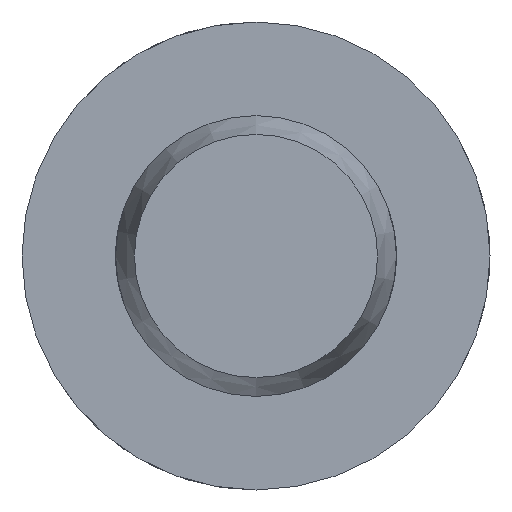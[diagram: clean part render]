
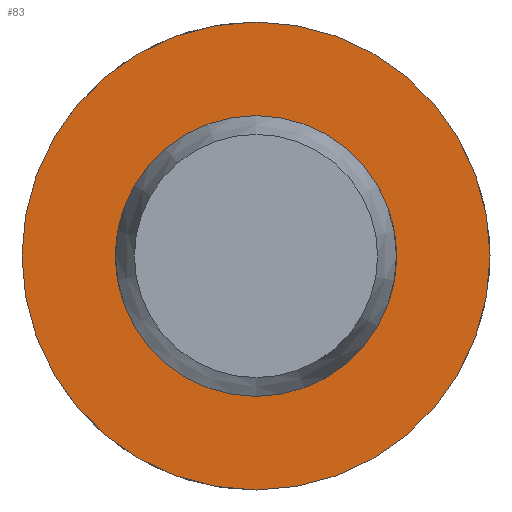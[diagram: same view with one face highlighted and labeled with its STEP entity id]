
A CAD part, left-side view. The second image highlights one B-rep face of the part: STEP entity #83.
In plain terms, the highlighted planar face has unit normal (-1, 0, 0).
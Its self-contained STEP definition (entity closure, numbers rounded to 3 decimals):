
#83 = ADVANCED_FACE( '', ( #128, #129 ), #130, .F. );
#128 = FACE_OUTER_BOUND( '', #205, .T. );
#129 = FACE_BOUND( '', #206, .T. );
#130 = PLANE( '', #207 );
#205 = EDGE_LOOP( '', ( #320 ) );
#206 = EDGE_LOOP( '', ( #321 ) );
#207 = AXIS2_PLACEMENT_3D( '', #322, #323, #324 );
#320 = ORIENTED_EDGE( '', *, *, #484, .F. );
#321 = ORIENTED_EDGE( '', *, *, #474, .T. );
#322 = CARTESIAN_POINT( '', ( 40.6, 6., 0. ) );
#323 = DIRECTION( '', ( 1., 0., 0. ) );
#324 = DIRECTION( '', ( 0., 0., -1. ) );
#474 = EDGE_CURVE( '', #545, #545, #546, .T. );
#484 = EDGE_CURVE( '', #563, #563, #564, .T. );
#545 = VERTEX_POINT( '', #734 );
#546 = CIRCLE( '', #735, 6. );
#563 = VERTEX_POINT( '', #903 );
#564 = CIRCLE( '', #904, 10. );
#734 = CARTESIAN_POINT( '', ( 40.6, 0., -6. ) );
#735 = AXIS2_PLACEMENT_3D( '', #965, #966, #967 );
#903 = CARTESIAN_POINT( '', ( 40.6, 0., -10. ) );
#904 = AXIS2_PLACEMENT_3D( '', #986, #987, #988 );
#965 = CARTESIAN_POINT( '', ( 40.6, 0., 0. ) );
#966 = DIRECTION( '', ( 1., 0., 0. ) );
#967 = DIRECTION( '', ( 0., 0., -1. ) );
#986 = CARTESIAN_POINT( '', ( 40.6, 0., 0. ) );
#987 = DIRECTION( '', ( 1., 0., 0. ) );
#988 = DIRECTION( '', ( 0., 0., -1. ) );
